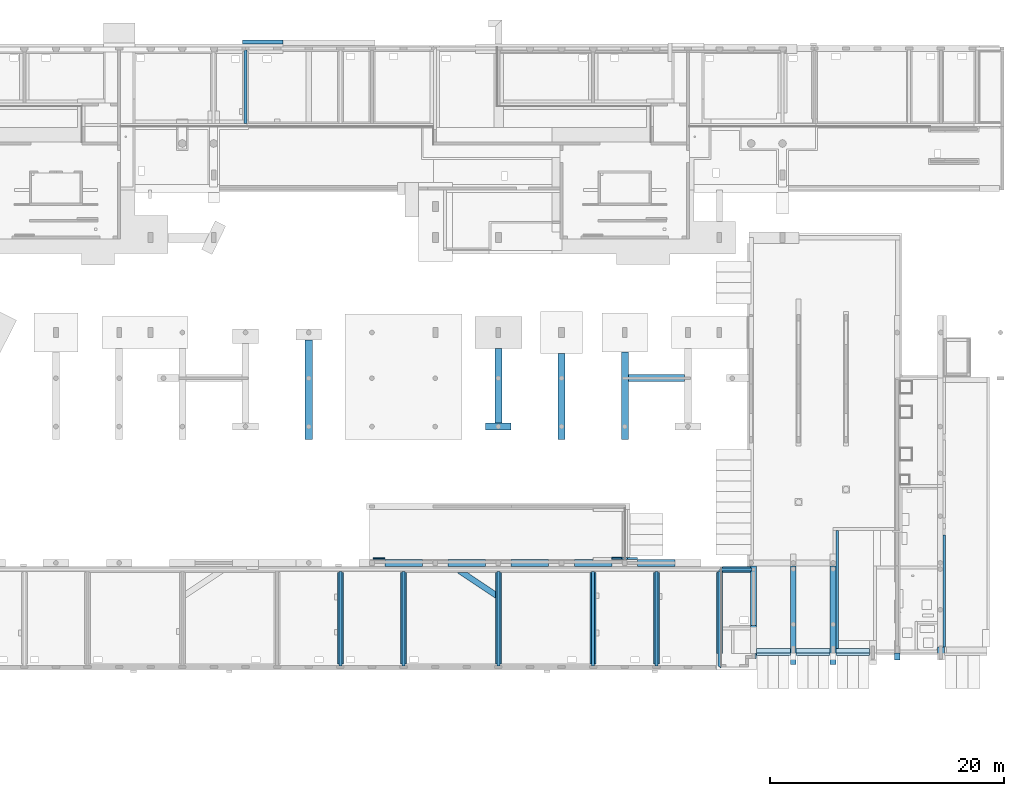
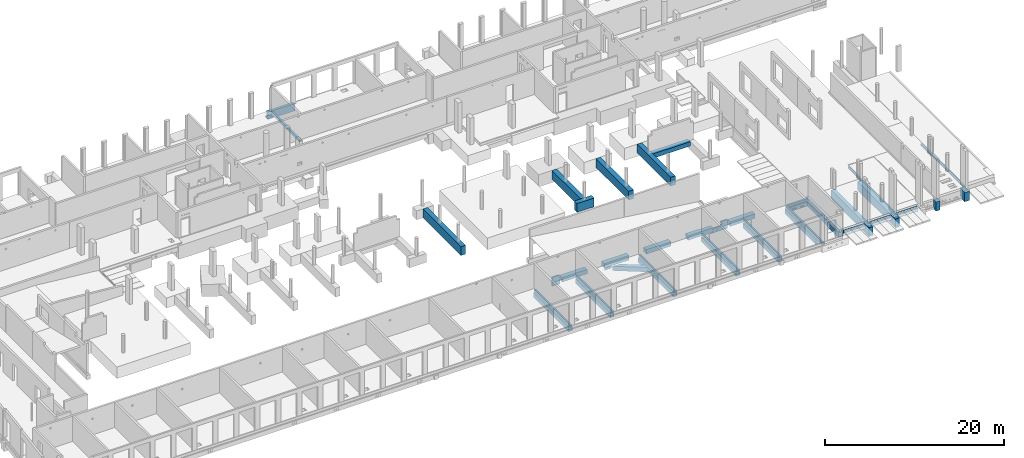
# One storey, part 5 of 60: 46 footings.
"""IFC2X3 building model written with IfcOpenShell, lengths in millimetres."""

from ifc_helpers import new_model, entity, si_unit, converted_unit, derived_unit, direction, frame, frame_2d, origin, origin_2d_with_axis, place, context, subcontext, project, spatial, polyline, circle_curve, parameter, trimmed, segment, composite_curve, rectangle, outline, extrude, material, element, save


model = new_model("IFC2X3")

# Units and contexts
model_context = context("Model", 3, precision=0.01, world=origin(), true_north=direction((6.12303176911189e-17, 1.0)))
body_context = subcontext(model_context, "Body", "Model", "MODEL_VIEW")
ifc_project = project(units=[si_unit("LENGTHUNIT", "METRE", prefix="MILLI"), si_unit("AREAUNIT", "SQUARE_METRE"), si_unit("VOLUMEUNIT", "CUBIC_METRE"), converted_unit("PLANEANGLEUNIT", "DEGREE", entity("IfcRatioMeasure", 0.0174532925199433), si_unit("PLANEANGLEUNIT", "RADIAN"), dimensions=[0, 0, 0, 0, 0, 0, 0]), si_unit("MASSUNIT", "GRAM", prefix="KILO"), derived_unit("MASSDENSITYUNIT", [(si_unit("MASSUNIT", "GRAM", prefix="KILO"), 1), (si_unit("LENGTHUNIT", "METRE"), -3)]), si_unit("TIMEUNIT", "SECOND"), si_unit("FREQUENCYUNIT", "HERTZ"), si_unit("THERMODYNAMICTEMPERATUREUNIT", "DEGREE_CELSIUS"), derived_unit("THERMALTRANSMITTANCEUNIT", [(si_unit("MASSUNIT", "GRAM", prefix="KILO"), 1), (si_unit("THERMODYNAMICTEMPERATUREUNIT", "KELVIN"), -1), (si_unit("TIMEUNIT", "SECOND"), -3)]), derived_unit("VOLUMETRICFLOWRATEUNIT", [(si_unit("LENGTHUNIT", "METRE"), 3), (si_unit("TIMEUNIT", "SECOND"), -1)]), si_unit("ELECTRICCURRENTUNIT", "AMPERE"), si_unit("ELECTRICVOLTAGEUNIT", "VOLT"), si_unit("POWERUNIT", "WATT"), si_unit("FORCEUNIT", "NEWTON", prefix="KILO"), si_unit("ILLUMINANCEUNIT", "LUX"), si_unit("LUMINOUSFLUXUNIT", "LUMEN"), si_unit("LUMINOUSINTENSITYUNIT", "CANDELA"), derived_unit("USERDEFINED", [(si_unit("MASSUNIT", "GRAM", prefix="KILO"), -1), (si_unit("LENGTHUNIT", "METRE"), -2), (si_unit("TIMEUNIT", "SECOND"), 3), (si_unit("LUMINOUSFLUXUNIT", "LUMEN"), 1)]), derived_unit("LINEARVELOCITYUNIT", [(si_unit("LENGTHUNIT", "METRE"), 1), (si_unit("TIMEUNIT", "SECOND"), -1)]), si_unit("PRESSUREUNIT", "PASCAL"), derived_unit("USERDEFINED", [(si_unit("LENGTHUNIT", "METRE"), -2), (si_unit("MASSUNIT", "GRAM", prefix="KILO"), 1), (si_unit("TIMEUNIT", "SECOND"), -2)])], contexts=[model_context])

# Site, building, storey
site_placement = place(None, origin())
site = spatial("IfcSite", under=ifc_project, at=site_placement, Name="Default", CompositionType="ELEMENT")
building_placement = place(site_placement, origin())
building = spatial("IfcBuilding", under=site, at=building_placement, Name="niet gebruiken", CompositionType="ELEMENT")
storey_placement = place(building_placement, origin())
storey = spatial("IfcBuildingStorey", under=building, at=storey_placement, Name="00 begane grond", CompositionType="ELEMENT", Elevation=0.0)

# Footings
ifc_material = material(Name="NLRS_f2_beton ihwg")
footing_1_placement = place(storey_placement, origin())
element("IfcFooting", 1, at=footing_1_placement, inside=storey, material=ifc_material, Name="NLRS_16.12_SF_WPB_funderingsbalk ihwg recht_gen:500x600", ObjectType="NLRS_16.12_SF_WPB_funderingsbalk ihwg recht_gen:500x600", PredefinedType="FOOTING_BEAM", context=body_context, shape_type="SweptSolid", body=[
    extrude(rectangle(XDim=7821.00000000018, YDim=499.999999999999, at=frame_2d((-161.12993296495, -124.999999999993), x_axis=(1.0, 0.0))), frame((67375.0, 4621.62993296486, -1092.0), z_axis=(0.0, 0.0, 1.0), x_axis=(0.0, 1.0, 0.0)), (0.0, 0.0, 1.0), 599.999999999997),
])
footing_2_placement = place(storey_placement, origin())
element("IfcFooting", 2, at=footing_2_placement, inside=storey, material=ifc_material, Name="NLRS_16.12_SF_WPB_funderingsbalk ihwg recht_gen:500x600", ObjectType="NLRS_16.12_SF_WPB_funderingsbalk ihwg recht_gen:500x600", PredefinedType="FOOTING_BEAM", context=body_context, shape_type="SweptSolid", body=[
    extrude(rectangle(XDim=7821.00000000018, YDim=499.999999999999, at=frame_2d((0.0, -4.33431068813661e-12), x_axis=(1.0, 0.0))), frame((72900.0, 4460.49999999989, -1092.0), z_axis=(0.0, 0.0, 1.0), x_axis=(0.0, 1.0, 0.0)), (0.0, 0.0, 1.0), 599.999999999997),
])
footing_3_placement = place(storey_placement, origin())
element("IfcFooting", 3, at=footing_3_placement, inside=storey, material=ifc_material, Name="NLRS_16.12_SF_WPB_funderingsbalk ihwg recht_gen:500x600", ObjectType="NLRS_16.12_SF_WPB_funderingsbalk ihwg recht_gen:500x600", PredefinedType="FOOTING_BEAM", context=body_context, shape_type="SweptSolid", body=[
    extrude(rectangle(XDim=7821.00000000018, YDim=499.99999999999, at=frame_2d((-669.089119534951, -83.3333333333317), x_axis=(1.0, 0.0))), frame((80916.6666666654, 5129.58911953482, -1092.0), z_axis=(0.0, 0.0, 1.0), x_axis=(0.0, 1.0, 0.0)), (0.0, 0.0, 1.0), 599.999999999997),
])
footing_4_placement = place(storey_placement, origin())
element("IfcFooting", 4, at=footing_4_placement, inside=storey, material=ifc_material, Name="NLRS_16.12_SF_WPB_funderingsbalk ihwg recht_gen:500x600", ObjectType="NLRS_16.12_SF_WPB_funderingsbalk ihwg recht_gen:500x600", PredefinedType="FOOTING_BEAM", context=body_context, shape_type="SweptSolid", body=[
    extrude(rectangle(XDim=7821.00000000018, YDim=499.99999999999, at=frame_2d((-173.255249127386, 125.000000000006), x_axis=(1.0, 0.0))), frame((89225.0, 4633.75524912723, -1092.0), z_axis=(0.0, 0.0, 1.0), x_axis=(0.0, 1.0, 0.0)), (0.0, 0.0, 1.0), 599.999999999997),
])
footing_5_placement = place(storey_placement, origin())
element("IfcFooting", 5, at=footing_5_placement, inside=storey, material=ifc_material, Name="NLRS_16.12_SF_WPB_funderingsbalk ihwg recht_gen:500x600", ObjectType="NLRS_16.12_SF_WPB_funderingsbalk ihwg recht_gen:500x600", PredefinedType="FOOTING_BEAM", context=body_context, shape_type="SweptSolid", body=[
    extrude(rectangle(XDim=7821.00000000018, YDim=499.99999999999, at=frame_2d((-618.746319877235, 83.3333333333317), x_axis=(1.0, 0.0))), frame((94583.333333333, 5079.24631987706, -1092.0), z_axis=(0.0, 0.0, 1.0), x_axis=(0.0, 1.0, 0.0)), (0.0, 0.0, 1.0), 599.999999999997),
])
footing_6_placement = place(storey_placement, origin())
element("IfcFooting", 6, at=footing_6_placement, inside=storey, material=ifc_material, Name="NLRS_16.12_SF_WPB_funderingsbalk ihwg recht_gen:500x600", ObjectType="NLRS_16.12_SF_WPB_funderingsbalk ihwg recht_gen:500x600", PredefinedType="FOOTING_BEAM", context=body_context, shape_type="SweptSolid", body=[
    extrude(outline(polyline([(-2668.4, -300.0), (4252.59999999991, -300.0), (4252.59999999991, 200.0), (-2668.39999999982, 200.0), (-3168.39999999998, 200.0), (-2668.4, -300.0)])), frame((99950.0, 5702.5999999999, -1092.0), z_axis=(0.0, 0.0, 1.0), x_axis=(0.0, -1.0, 0.0)), (0.0, 0.0, 1.0), 599.999999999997),
])
footing_7_placement = place(storey_placement, origin())
element("IfcFooting", 7, at=footing_7_placement, inside=storey, material=ifc_material, Name="NLRS_16.12_SF_WPB_opstort ihwg recht_gen:250x332", ObjectType="NLRS_16.12_SF_WPB_opstort ihwg recht_gen:250x332", PredefinedType="FOOTING_BEAM", context=body_context, shape_type="SweptSolid", body=[
    extrude(rectangle(XDim=8083.29999999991, YDim=249.999999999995, at=origin_2d_with_axis()), frame((67500.0, 4441.65000000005, -492.0), z_axis=(0.0, 0.0, 1.0), x_axis=(0.0, -1.0, 0.0)), (0.0, 0.0, 1.0), 331.999999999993),
])
footing_8_placement = place(storey_placement, origin())
element("IfcFooting", 8, at=footing_8_placement, inside=storey, material=ifc_material, Name="NLRS_16.12_SF_WPB_opstort ihwg recht_gen:250x332", ObjectType="NLRS_16.12_SF_WPB_opstort ihwg recht_gen:250x332", PredefinedType="FOOTING_BEAM", context=body_context, shape_type="SweptSolid", body=[
    extrude(rectangle(XDim=8083.29999999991, YDim=249.999999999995, at=origin_2d_with_axis()), frame((72900.0, 4441.65000000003, -492.0), z_axis=(0.0, 0.0, 1.0), x_axis=(0.0, -1.0, 0.0)), (0.0, 0.0, 1.0), 331.999999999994),
])
footing_9_placement = place(storey_placement, origin())
element("IfcFooting", 9, at=footing_9_placement, inside=storey, material=ifc_material, Name="NLRS_16.12_SF_WPB_opstort ihwg recht_gen:250x332", ObjectType="NLRS_16.12_SF_WPB_opstort ihwg recht_gen:250x332", PredefinedType="FOOTING_BEAM", context=body_context, shape_type="SweptSolid", body=[
    extrude(rectangle(XDim=8083.29999999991, YDim=249.999999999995, at=frame_2d((0.0, 8.66151594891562e-12), x_axis=(1.0, 0.0))), frame((81000.0, 4441.65000000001, -492.0), z_axis=(0.0, 0.0, 1.0), x_axis=(0.0, -1.0, 0.0)), (0.0, 0.0, 1.0), 331.999999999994),
])
footing_10_placement = place(storey_placement, origin())
element("IfcFooting", 10, at=footing_10_placement, inside=storey, material=ifc_material, Name="NLRS_16.12_SF_WPB_opstort ihwg recht_gen:250x332", ObjectType="NLRS_16.12_SF_WPB_opstort ihwg recht_gen:250x332", PredefinedType="FOOTING_BEAM", context=body_context, shape_type="SweptSolid", body=[
    extrude(rectangle(XDim=8083.29999999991, YDim=249.999999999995, at=frame_2d((0.0, -8.66151594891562e-12), x_axis=(1.0, 0.0))), frame((89100.0, 4441.64999999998, -492.0), z_axis=(0.0, 0.0, 1.0), x_axis=(0.0, -1.0, 0.0)), (0.0, 0.0, 1.0), 331.999999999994),
])
footing_11_placement = place(storey_placement, origin())
element("IfcFooting", 11, at=footing_11_placement, inside=storey, material=ifc_material, Name="NLRS_16.12_SF_WPB_opstort ihwg recht_gen:250x332", ObjectType="NLRS_16.12_SF_WPB_opstort ihwg recht_gen:250x332", PredefinedType="FOOTING_BEAM", context=body_context, shape_type="SweptSolid", body=[
    extrude(rectangle(XDim=8083.29999999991, YDim=249.999999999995, at=frame_2d((0.0, -8.66151594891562e-12), x_axis=(1.0, 0.0))), frame((94500.0, 4441.64999999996, -492.0), z_axis=(0.0, 0.0, 1.0), x_axis=(0.0, -1.0, 0.0)), (0.0, 0.0, 1.0), 331.999999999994),
])
footing_12_placement = place(storey_placement, origin())
element("IfcFooting", 12, at=footing_12_placement, inside=storey, material=ifc_material, Name="NLRS_16.12_SF_WPB_opstort ihwg recht_gen:250x332", ObjectType="NLRS_16.12_SF_WPB_opstort ihwg recht_gen:250x332", PredefinedType="FOOTING_BEAM", context=body_context, shape_type="SweptSolid", body=[
    extrude(outline(polyline([(-4889.97999999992, -150.0), (3193.31999999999, -150.0), (3393.31999999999, 100.0), (3193.31999999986, 100.0), (-4889.97999999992, 100.0), (-4889.97999999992, -150.0)])), frame((99925.0, 3593.31999999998, -492.0), z_axis=(0.0, 0.0, 1.0), x_axis=(0.0, -1.0, 0.0)), (0.0, 0.0, 1.0), 331.999999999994),
])
footing_13_placement = place(storey_placement, origin())
element("IfcFooting", 13, at=footing_13_placement, inside=storey, material=ifc_material, Name="NLRS_16.12_SF_WPB_opstort ihwg recht_gen:250x332", ObjectType="NLRS_16.12_SF_WPB_opstort ihwg recht_gen:250x332", PredefinedType="FOOTING_BEAM", context=body_context, shape_type="SweptSolid", body=[
    extrude(rectangle(XDim=6259.99999999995, YDim=250.000000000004, at=frame_2d((-4.32009983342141e-12, -4.33431068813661e-12), x_axis=(1.0, 0.0))), frame((59400.0, 49876.0, -492.0), z_axis=(0.0, 0.0, 1.0), x_axis=(0.0, 1.0, 0.0)), (0.0, 0.0, 1.0), 331.999999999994),
])
footing_14_placement = place(storey_placement, origin())
element("IfcFooting", 14, at=footing_14_placement, inside=storey, material=ifc_material, Name="NLRS_16.12_SF_WPB_funderingsbalk ihwg recht_gen:600x1200", ObjectType="NLRS_16.12_SF_WPB_funderingsbalk ihwg recht_gen:600x1200", PredefinedType="FOOTING_BEAM", context=body_context, shape_type="SweptSolid", body=[
    extrude(rectangle(XDim=8504.99999999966, YDim=600.000000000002, at=frame_2d((0.0, -4.32009983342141e-12), x_axis=(1.0, 0.0))), frame((64800.0, 23998.5000000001, -1400.0), z_axis=(0.0, 0.0, 1.0), x_axis=(0.0, 1.0, 0.0)), (0.0, 0.0, 1.0), 1200.0),
])
footing_15_placement = place(storey_placement, origin())
element("IfcFooting", 15, at=footing_15_placement, inside=storey, material=ifc_material, Name="NLRS_16.12_SF_WPB_funderingsbalk ihwg recht_gen:600x1200", ObjectType="NLRS_16.12_SF_WPB_funderingsbalk ihwg recht_gen:600x1200", PredefinedType="FOOTING_BEAM", context=body_context, shape_type="SweptSolid", body=[
    extrude(rectangle(XDim=6384.99999999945, YDim=600.000000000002, at=frame_2d((0.0, 8.66862137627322e-12), x_axis=(1.0, 0.0))), frame((81000.0, 24338.5000000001, -1400.0), z_axis=(0.0, 0.0, 1.0), x_axis=(0.0, -1.0, 0.0)), (0.0, 0.0, 1.0), 1200.0),
])
footing_16_placement = place(storey_placement, origin())
element("IfcFooting", 16, at=footing_16_placement, inside=storey, material=ifc_material, Name="NLRS_16.12_SF_WPB_funderingsbalk ihwg recht_gen:600x1200", ObjectType="NLRS_16.12_SF_WPB_funderingsbalk ihwg recht_gen:600x1200", PredefinedType="FOOTING_BEAM", context=body_context, shape_type="SweptSolid", body=[
    extrude(rectangle(XDim=7334.99999999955, YDim=600.000000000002, at=frame_2d((0.0, -8.66862137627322e-12), x_axis=(1.0, 0.0))), frame((86400.0, 23413.5, -1400.0), z_axis=(0.0, 0.0, 1.0), x_axis=(0.0, 1.0, 0.0)), (0.0, 0.0, 1.0), 1200.0),
])
footing_17_placement = place(storey_placement, origin())
element("IfcFooting", 17, at=footing_17_placement, inside=storey, material=ifc_material, Name="NLRS_16.12_SF_WPB_funderingsbalk ihwg recht_gen:600x1200", ObjectType="NLRS_16.12_SF_WPB_funderingsbalk ihwg recht_gen:600x1200", PredefinedType="FOOTING_BEAM", context=body_context, shape_type="SweptSolid", body=[
    extrude(rectangle(XDim=7459.99999999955, YDim=600.000000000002, at=frame_2d((2.27373675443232e-12, -8.66862137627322e-12), x_axis=(1.0, 0.0))), frame((91800.0, 23476.0, -1400.0), z_axis=(0.0, 0.0, 1.0), x_axis=(0.0, 1.0, 0.0)), (0.0, 0.0, 1.0), 1200.0),
])
footing_18_placement = place(storey_placement, origin())
element("IfcFooting", 18, at=footing_18_placement, inside=storey, material=ifc_material, Name="NLRS_16.12_SF_WPB_funderingsbalk ihwg recht_gen:600x1200", ObjectType="NLRS_16.12_SF_WPB_funderingsbalk ihwg recht_gen:600x1200", PredefinedType="FOOTING_BEAM", context=body_context, shape_type="SweptSolid", body=[
    extrude(rectangle(XDim=2199.99999999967, YDim=600.000000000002, at=frame_2d((-5.16138243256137e-11, -99.9999999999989), x_axis=(1.0, 0.0))), frame((81000.0, 20946.0, -1400.0)), (0.0, 0.0, 1.0), 1200.0),
])
footing_19_placement = place(storey_placement, origin())
element("IfcFooting", 19, at=footing_19_placement, inside=storey, material=ifc_material, Name="NLRS_16.12_SF_WPB_funderingsbalk ihwg recht_gen:600x600", ObjectType="NLRS_16.12_SF_WPB_funderingsbalk ihwg recht_gen:600x600", PredefinedType="FOOTING_BEAM", context=body_context, shape_type="SweptSolid", body=[
    extrude(rectangle(XDim=2900.00037071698, YDim=600.0, at=origin_2d_with_axis()), frame((104500.0, 1600.0, -1050.0)), (0.0, 0.0, 1.0), 399.999999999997),
])
footing_20_placement = place(storey_placement, origin())
element("IfcFooting", 20, at=footing_20_placement, inside=storey, material=ifc_material, Name="NLRS_16.12_SF_WPB_funderingsbalk ihwg recht_gen:600x600", ObjectType="NLRS_16.12_SF_WPB_funderingsbalk ihwg recht_gen:600x600", PredefinedType="FOOTING_BEAM", context=body_context, shape_type="SweptSolid", body=[
    extrude(rectangle(XDim=2899.99999999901, YDim=600.0, at=frame_2d((8.75388650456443e-12, 0.0), x_axis=(1.0, 0.0))), frame((107900.000370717, 1600.0, -1050.0)), (0.0, 0.0, 1.0), 399.999999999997),
])
footing_21_placement = place(storey_placement, origin())
element("IfcFooting", 21, at=footing_21_placement, inside=storey, material=ifc_material, Name="NLRS_16.12_SF_WPB_funderingsbalk ihwg recht_gen:600x600", ObjectType="NLRS_16.12_SF_WPB_funderingsbalk ihwg recht_gen:600x600", PredefinedType="FOOTING_BEAM", context=body_context, shape_type="SweptSolid", body=[
    extrude(rectangle(XDim=2850.00000000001, YDim=600.0, at=origin_2d_with_axis()), frame((111275.000370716, 1600.0, -1050.0), z_axis=(0.0, 0.0, 1.0), x_axis=(-1.0, 0.0, 0.0)), (0.0, 0.0, 1.0), 399.999999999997),
])
footing_22_placement = place(storey_placement, origin())
element("IfcFooting", 22, at=footing_22_placement, inside=storey, material=ifc_material, Name="NLRS_16.12_SF_WPB_funderingsbalk ihwg recht_gen:500x600", ObjectType="NLRS_16.12_SF_WPB_funderingsbalk ihwg recht_gen:500x600", PredefinedType="FOOTING_BEAM", context=body_context, shape_type="SweptSolid", body=[
    extrude(rectangle(XDim=5096.00000000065, YDim=499.99999999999, at=frame_2d((-740.99999999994, -83.333333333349), x_axis=(1.0, 0.0))), frame((102716.666666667, 7139.0, -1092.0), z_axis=(0.0, 0.0, 1.0), x_axis=(0.0, 1.0, 0.0)), (0.0, 0.0, 1.0), 599.999999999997),
])
footing_23_placement = place(storey_placement, origin())
element("IfcFooting", 23, at=footing_23_placement, inside=storey, material=ifc_material, Name="NLRS_16.12_SF_WPB_funderingsbalk ihwg recht_gen:500x600", ObjectType="NLRS_16.12_SF_WPB_funderingsbalk ihwg recht_gen:500x600", PredefinedType="FOOTING_BEAM", context=body_context, shape_type="SweptSolid", body=[
    extrude(outline(polyline([(-1200.0, -300.0), (1200.0, -300.0), (1200.0, 300.0), (-1200.0, 300.0), (-1200.0, -300.0)]), holes=[composite_curve([segment(trimmed(circle_curve(frame_2d((-374.724709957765, -98.0), x_axis=(-1.0, 0.0)), 80.0), [parameter(5.08888749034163e-13)], [parameter(180.0)], True, "PARAMETER"), False, "CONTINUOUS"), segment(trimmed(circle_curve(frame_2d((-374.724709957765, -98.0), x_axis=(-1.0, 0.0)), 80.0), [parameter(180.0)], [parameter(360.0)], True, "PARAMETER"), False, "CONTINUOUS")], self_intersect=False), composite_curve([segment(trimmed(circle_curve(frame_2d((-674.72470995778, -98.0), x_axis=(-1.0, 0.0)), 80.0), [parameter(3.05333249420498e-13)], [parameter(180.0)], True, "PARAMETER"), False, "CONTINUOUS"), segment(trimmed(circle_curve(frame_2d((-674.72470995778, -98.0), x_axis=(-1.0, 0.0)), 80.0), [parameter(180.0)], [parameter(360.0)], True, "PARAMETER"), False, "CONTINUOUS")], self_intersect=False), composite_curve([segment(trimmed(circle_curve(frame_2d((725.373813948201, -53.0), x_axis=(-1.0, 0.0)), 125.0), [parameter(3.05333249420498e-13)], [parameter(180.0)], True, "PARAMETER"), False, "CONTINUOUS"), segment(trimmed(circle_curve(frame_2d((725.373813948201, -53.0), x_axis=(-1.0, 0.0)), 125.0), [parameter(180.0)], [parameter(360.0)], True, "PARAMETER"), False, "CONTINUOUS")], self_intersect=False), composite_curve([segment(trimmed(circle_curve(frame_2d((375.373813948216, -53.0), x_axis=(-1.0, 0.0)), 125.0), [parameter(3.05333249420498e-13)], [parameter(180.0)], True, "PARAMETER"), False, "CONTINUOUS"), segment(trimmed(circle_curve(frame_2d((375.373813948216, -53.0), x_axis=(-1.0, 0.0)), 125.0), [parameter(180.0)], [parameter(360.0)], True, "PARAMETER"), False, "CONTINUOUS")], self_intersect=False)]), frame((101350.0, 8371.0, -792.0), z_axis=(0.0, 1.0, 0.0), x_axis=(-1.0, 0.0, 0.0)), (0.0, 0.0, 1.0), 500.0),
])
footing_24_placement = place(storey_placement, origin())
element("IfcFooting", 24, at=footing_24_placement, inside=storey, material=ifc_material, Name="NLRS_16.12_SF_WPB_funderingsbalk ihwg recht_gen:600x600", ObjectType="NLRS_16.12_SF_WPB_funderingsbalk ihwg recht_gen:600x600", PredefinedType="FOOTING_BEAM", context=body_context, shape_type="SweptSolid", body=[
    extrude(rectangle(XDim=3200.00000000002, YDim=600.0, at=frame_2d((0.0, -5.40012479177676e-13), x_axis=(1.0, 0.0))), frame((72900.0, 9196.0, -800.0)), (0.0, 0.0, 1.0), 599.999999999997),
])
footing_25_placement = place(storey_placement, origin())
element("IfcFooting", 25, at=footing_25_placement, inside=storey, material=ifc_material, Name="NLRS_16.12_SF_WPB_funderingsbalk ihwg recht_gen:600x600", ObjectType="NLRS_16.12_SF_WPB_funderingsbalk ihwg recht_gen:600x600", PredefinedType="FOOTING_BEAM", context=body_context, shape_type="SweptSolid", body=[
    extrude(rectangle(XDim=3200.00000000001, YDim=600.0, at=frame_2d((-4.32009983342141e-12, -5.40012479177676e-13), x_axis=(1.0, 0.0))), frame((78300.0, 9196.0, -800.0)), (0.0, 0.0, 1.0), 599.999999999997),
])
footing_26_placement = place(storey_placement, origin())
element("IfcFooting", 26, at=footing_26_placement, inside=storey, material=ifc_material, Name="NLRS_16.12_SF_WPB_funderingsbalk ihwg recht_gen:600x600", ObjectType="NLRS_16.12_SF_WPB_funderingsbalk ihwg recht_gen:600x600", PredefinedType="FOOTING_BEAM", context=body_context, shape_type="SweptSolid", body=[
    extrude(rectangle(XDim=3200.0, YDim=600.0, at=frame_2d((8.64019966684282e-12, -5.40012479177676e-13), x_axis=(1.0, 0.0))), frame((83700.0, 9196.0, -800.0)), (0.0, 0.0, 1.0), 599.999999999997),
])
footing_27_placement = place(storey_placement, origin())
element("IfcFooting", 27, at=footing_27_placement, inside=storey, material=ifc_material, Name="NLRS_16.12_SF_WPB_funderingsbalk ihwg recht_gen:600x600", ObjectType="NLRS_16.12_SF_WPB_funderingsbalk ihwg recht_gen:600x600", PredefinedType="FOOTING_BEAM", context=body_context, shape_type="SweptSolid", body=[
    extrude(outline(polyline([(-1600.0, -373.333333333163), (1600.0, -373.333333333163), (1600.0, 146.666666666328), (0.0, 146.666666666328), (0.0, 226.666666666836), (-1600.0, 226.666666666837), (-1600.0, -373.333333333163)])), frame((89100.0, 9269.33333333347, -800.0)), (0.0, 0.0, 1.0), 599.999999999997),
])
footing_28_placement = place(storey_placement, origin())
element("IfcFooting", 28, at=footing_28_placement, inside=storey, material=ifc_material, Name="NLRS_16.12_SF_WPB_opstort ihwg recht_gen:375x292", ObjectType="NLRS_16.12_SF_WPB_opstort ihwg recht_gen:375x292", PredefinedType="FOOTING_BEAM", context=body_context, shape_type="SweptSolid", body=[
    extrude(outline(polyline([(-4488.81818181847, -181.818181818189), (-4288.81818181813, -181.818181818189), (-4038.81818181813, -181.818181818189), (862.181818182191, -181.818181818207), (3007.18181818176, -181.818181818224), (3007.18181818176, 68.1818181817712), (3407.18181818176, 68.1818181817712), (3407.18181818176, 193.181818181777), (3007.18181818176, 193.181818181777), (607.181818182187, 193.181818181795), (-4488.81818181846, 193.181818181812), (-4488.81818181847, -181.818181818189)])), frame((102856.818181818, 4457.18181818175, -492.0), z_axis=(0.0, 0.0, 1.0), x_axis=(0.0, -1.0, 0.0)), (0.0, 0.0, 1.0), 291.999999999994),
])
footing_29_placement = place(storey_placement, origin())
element("IfcFooting", 29, at=footing_29_placement, inside=storey, material=ifc_material, Name="NLRS_16.12_SF_WPB_funderingsbalk ihwg recht_gen:200x200", ObjectType="NLRS_16.12_SF_WPB_funderingsbalk ihwg recht_gen:200x200", PredefinedType="FOOTING_BEAM", context=body_context, shape_type="SweptSolid", body=[
    extrude(rectangle(XDim=9598.26243587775, YDim=200.000000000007, at=frame_2d((4.54747350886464e-13, 0.0), x_axis=(1.0, 0.0))), frame((119100.0, 6801.8687820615, -505.0), z_axis=(0.0, 0.0, 1.0), x_axis=(0.0, 1.0, 0.0)), (0.0, 0.0, 1.0), 199.999999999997),
])
footing_30_placement = place(storey_placement, origin())
element("IfcFooting", 30, at=footing_30_placement, inside=storey, material=ifc_material, Name="NLRS_16.12_SF_WPB_funderingsbalk ihwg recht_gen:500x1200", ObjectType="NLRS_16.12_SF_WPB_funderingsbalk ihwg recht_gen:500x1200", PredefinedType="FOOTING_BEAM", context=body_context, shape_type="SweptSolid", body=[
    extrude(outline(polyline([(-4031.55555555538, -677.777777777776), (4264.44444444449, -677.777777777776), (4264.44444444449, -627.777777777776), (4414.44444444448, -627.777777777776), (4414.44444444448, 522.222222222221), (-2631.55555555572, 522.222222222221), (-3031.55555555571, 522.222222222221), (-3631.55555555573, 522.22222222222), (-4031.55555555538, 522.22222222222), (-4031.55555555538, -677.777777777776)])), frame((109350.000370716, 4531.55555555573, -972.222222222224), z_axis=(1.0, 0.0, 0.0), x_axis=(0.0, 1.0, 0.0)), (0.0, 0.0, 1.0), 499.99999999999),
])
footing_31_placement = place(storey_placement, origin())
element("IfcFooting", 31, at=footing_31_placement, inside=storey, material=ifc_material, Name="NLRS_16.12_SF_WPB_funderingsbalk ihwg recht_gen:200x200", ObjectType="NLRS_16.12_SF_WPB_funderingsbalk ihwg recht_gen:200x200", PredefinedType="FOOTING_BEAM", context=body_context, shape_type="SweptSolid", body=[
    extrude(rectangle(XDim=10071.0000000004, YDim=200.000000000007, at=frame_2d((0.0, -8.66862137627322e-12), x_axis=(1.0, 0.0))), frame((109950.000370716, 6935.50000000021, -650.0), z_axis=(0.0, 0.0, 1.0), x_axis=(0.0, 1.0, 0.0)), (0.0, 0.0, 1.0), 199.999999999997),
])
footing_32_placement = place(storey_placement, origin())
element("IfcFooting", 32, at=footing_32_placement, inside=storey, material=ifc_material, Name="NLRS_16.12_SF_WPB_funderingsbalk ihwg recht_gen:500x1200", ObjectType="NLRS_16.12_SF_WPB_funderingsbalk ihwg recht_gen:500x1200", PredefinedType="FOOTING_BEAM", context=body_context, shape_type="SweptSolid", body=[
    extrude(outline(polyline([(-4031.55555555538, -677.777777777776), (4264.44444444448, -677.777777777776), (4264.44444444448, -627.777777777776), (4414.44444444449, -627.777777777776), (4414.44444444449, 522.22222222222), (-2631.55555555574, 522.22222222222), (-3031.5555555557, 522.22222222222), (-3631.55555555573, 522.22222222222), (-4031.55555555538, 522.22222222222), (-4031.55555555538, -677.777777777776)])), frame((105950.000370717, 4531.55555555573, -972.222222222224), z_axis=(1.0, 0.0, 0.0), x_axis=(0.0, 1.0, 0.0)), (0.0, 0.0, 1.0), 499.99999999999),
])
footing_33_placement = place(storey_placement, origin())
element("IfcFooting", 33, at=footing_33_placement, inside=storey, material=ifc_material, Name="NLRS_16.12_SF_WPB_funderingsbalk ihwg recht_gen:600x1250", ObjectType="NLRS_16.12_SF_WPB_funderingsbalk ihwg recht_gen:600x1250", PredefinedType="FOOTING_BEAM", context=body_context, shape_type="SweptSolid", body=[
    extrude(outline(polyline([(-600.0, -600.0), (-150.0, -600.0), (-150.0, -350.0), (0.0, -350.0), (250.0, -350.0), (500.0, -350.0), (500.0, 650.0), (250.0, 650.0), (0.0, 650.0), (-600.0, 650.0), (-600.0, -600.0)])), frame((118500.0, 1500.0, -950.0), z_axis=(1.0, 0.0, 0.0), x_axis=(0.0, 1.0, 0.0)), (0.0, 0.0, 1.0), 600.000000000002),
])
footing_34_placement = place(storey_placement, origin())
element("IfcFooting", 34, at=footing_34_placement, inside=storey, material=ifc_material, Name="NLRS_16.12_SF_WPB_funderingsbalk ihwg recht_gen:500x1250", ObjectType="NLRS_16.12_SF_WPB_funderingsbalk ihwg recht_gen:500x1250", PredefinedType="FOOTING_BEAM", context=body_context, shape_type="SweptSolid", body=[
    extrude(outline(polyline([(-385.714285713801, -585.714285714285), (64.2857142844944, -585.714285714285), (64.285714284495, -335.714285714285), (214.285714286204, -335.714285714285), (214.285714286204, 514.285714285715), (214.285714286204, 664.285714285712), (-385.714285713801, 664.285714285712), (-385.714285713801, -585.714285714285)])), frame((114825.0, 1285.7142857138, -964.285714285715), z_axis=(1.0, 0.0, 0.0), x_axis=(0.0, 1.0, 0.0)), (0.0, 0.0, 1.0), 499.99999999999),
])
footing_35_placement = place(storey_placement, origin())
element("IfcFooting", 35, at=footing_35_placement, inside=storey, material=ifc_material, Name="NLRS_16.12_SF_WPB_funderingsbalk ihwg recht_gen:600x600", ObjectType="NLRS_16.12_SF_WPB_funderingsbalk ihwg recht_gen:600x600", PredefinedType="FOOTING_BEAM", context=body_context, shape_type="SweptSolid", body=[
    extrude(rectangle(XDim=4800.00000000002, YDim=600.000000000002, at=origin_2d_with_axis()), frame((94500.0, 24976.0, -800.0)), (0.0, 0.0, 1.0), 599.999999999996),
])
footing_36_placement = place(storey_placement, origin())
element("IfcFooting", 36, at=footing_36_placement, inside=storey, material=ifc_material, Name="NLRS_16.12_SF_WPB_funderingsbalk ihwg recht_gen:600x600", ObjectType="NLRS_16.12_SF_WPB_funderingsbalk ihwg recht_gen:600x600", PredefinedType="FOOTING_BEAM", context=body_context, shape_type="SweptSolid", body=[
    extrude(rectangle(XDim=3200.0, YDim=600.0, at=frame_2d((8.64019966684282e-12, -5.40012479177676e-13), x_axis=(1.0, 0.0))), frame((94500.0, 9196.0, -800.0)), (0.0, 0.0, 1.0), 599.999999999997),
])
footing_37_placement = place(storey_placement, origin())
element("IfcFooting", 37, at=footing_37_placement, inside=storey, material=ifc_material, Name="NLRS_16.12_SF_WPB_opstort ihwg recht_gen:250x292", ObjectType="NLRS_16.12_SF_WPB_opstort ihwg recht_gen:250x292", PredefinedType="FOOTING_BEAM", context=body_context, shape_type="SweptSolid", body=[
    extrude(rectangle(XDim=2630.00000000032, YDim=249.999999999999, at=frame_2d((-8.64019966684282e-12, 0.0), x_axis=(1.0, 0.0))), frame((101360.0, 8621.0, -492.0), z_axis=(0.0, 0.0, 1.0), x_axis=(-1.0, 0.0, 0.0)), (0.0, 0.0, 1.0), 291.999999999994),
])
footing_38_placement = place(storey_placement, origin())
element("IfcFooting", 38, at=footing_38_placement, inside=storey, material=ifc_material, Name="NLRS_16.12_SF_WPB_opstort ihwg recht_gen:400x200", ObjectType="NLRS_16.12_SF_WPB_opstort ihwg recht_gen:400x200", PredefinedType="FOOTING_BEAM", context=body_context, shape_type="SweptSolid", body=[
    extrude(rectangle(XDim=2850.00000000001, YDim=400.0, at=frame_2d((244.999999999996, -40.0), x_axis=(1.0, 0.0))), frame((111030.000370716, 1740.0, -650.0)), (0.0, 0.0, 1.0), 199.999999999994),
])
footing_39_placement = place(storey_placement, origin())
element("IfcFooting", 39, at=footing_39_placement, inside=storey, material=ifc_material, Name="NLRS_16.12_SF_WPB_opstort ihwg recht_gen:400x200", ObjectType="NLRS_16.12_SF_WPB_opstort ihwg recht_gen:400x200", PredefinedType="FOOTING_BEAM", context=body_context, shape_type="SweptSolid", body=[
    extrude(rectangle(XDim=2899.99999999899, YDim=400.0, at=frame_2d((8.64019966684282e-12, -2.70006239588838e-13), x_axis=(1.0, 0.0))), frame((107900.000370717, 1700.0, -650.0)), (0.0, 0.0, 1.0), 199.999999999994),
])
footing_40_placement = place(storey_placement, origin())
element("IfcFooting", 40, at=footing_40_placement, inside=storey, material=ifc_material, Name="NLRS_16.12_SF_WPB_opstort ihwg recht_gen:400x200", ObjectType="NLRS_16.12_SF_WPB_opstort ihwg recht_gen:400x200", PredefinedType="FOOTING_BEAM", context=body_context, shape_type="SweptSolid", body=[
    extrude(rectangle(XDim=2900.00037071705, YDim=400.0, at=frame_2d((-8.75388650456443e-12, -2.70006239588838e-13), x_axis=(1.0, 0.0))), frame((104500.0, 1700.0, -650.0)), (0.0, 0.0, 1.0), 199.999999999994),
])
footing_41_placement = place(storey_placement, origin())
element("IfcFooting", 41, at=footing_41_placement, inside=storey, material=ifc_material, Name="NLRS_16.12_SF_WPB_funderingsbalk ihwg recht_gen:500x658", ObjectType="NLRS_16.12_SF_WPB_funderingsbalk ihwg recht_gen:500x658", PredefinedType="FOOTING_BEAM", context=body_context, shape_type="SweptSolid", body=[
    extrude(rectangle(XDim=2399.99999999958, YDim=499.99999999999, at=frame_2d((308.33333333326, 83.3333333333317), x_axis=(1.0, 0.0))), frame((102716.666666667, 2958.33333333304, -1150.0), z_axis=(0.0, 0.0, 1.0), x_axis=(0.0, -1.0, 0.0)), (0.0, 0.0, 1.0), 657.999999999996),
])
footing_42_placement = place(storey_placement, origin())
element("IfcFooting", 42, at=footing_42_placement, inside=storey, material=ifc_material, Name="NLRS_16.12_SF_WPB_funderingsbalk ihwg recht_gen:500x600", ObjectType="NLRS_16.12_SF_WPB_funderingsbalk ihwg recht_gen:500x600", PredefinedType="FOOTING_BEAM", context=body_context, shape_type="SweptSolid", body=[
    extrude(outline(polyline([(-189.222690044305, -250.0), (-183.317001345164, -250.0), (561.762381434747, 250.0), (-189.222690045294, 250.0), (-189.222690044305, -250.0)])), frame((77011.6790280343, 8976.44029893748, -1092.0), z_axis=(0.0, 0.0, 1.0), x_axis=(0.830359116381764, -0.55722862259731, 0.0)), (0.0, 0.0, 1.0), 274.999999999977),
    extrude(outline(polyline([(-1539.99904482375, -250.0), (1335.22671203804, -250.0), (2080.30609481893, 250.0), (-1875.53376203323, 250.0), (-1539.99904482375, -250.0)])), frame((79331.9405982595, 7419.38367930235, -1092.0), z_axis=(0.0, 0.0, 1.0), x_axis=(-0.830359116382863, 0.557228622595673, 0.0)), (0.0, 0.0, 1.0), 599.999999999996),
])
footing_43_placement = place(storey_placement, origin())
element("IfcFooting", 43, at=footing_43_placement, inside=storey, material=ifc_material, Name="NLRS_16.12_SF_WPB_funderingsbalk ihwg recht_gen:350x1000", ObjectType="NLRS_16.12_SF_WPB_funderingsbalk ihwg recht_gen:350x1000", PredefinedType="FOOTING_BEAM", context=body_context, shape_type="SweptSolid", body=[
    extrude(rectangle(XDim=3450.0, YDim=350.000000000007, at=frame_2d((0.0, -4.33431068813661e-12), x_axis=(1.0, 0.0))), frame((60875.0, 53706.0, -1492.0)), (0.0, 0.0, 1.0), 999.999999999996),
])
footing_44_placement = place(storey_placement, origin())
element("IfcFooting", 44, at=footing_44_placement, inside=storey, material=ifc_material, Name="NLRS_16.12_SF_WPB_funderingsbalk ihwg recht_gen:1000x1200", ObjectType="NLRS_16.12_SF_WPB_funderingsbalk ihwg recht_gen:1000x1200", PredefinedType="FOOTING_BEAM", context=body_context, shape_type="SweptSolid", body=[
    extrude(rectangle(XDim=149.999999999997, YDim=1000.00000000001, at=frame_2d((1.08002495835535e-12, 4.34852154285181e-12), x_axis=(1.0, 0.0))), frame((70800.0, 9571.0, -1400.0), z_axis=(0.0, 0.0, 1.0), x_axis=(0.0, -1.0, 0.0)), (0.0, 0.0, 1.0), 1200.0),
])
footing_45_placement = place(storey_placement, origin())
element("IfcFooting", 45, at=footing_45_placement, inside=storey, material=ifc_material, Name="NLRS_16.12_SF_WPB_funderingsbalk ihwg recht_gen:1350x1200", ObjectType="NLRS_16.12_SF_WPB_funderingsbalk ihwg recht_gen:1350x1200", PredefinedType="FOOTING_BEAM", context=body_context, shape_type="SweptSolid", body=[
    extrude(outline(polyline([(-709.090909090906, -568.181803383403), (-109.090909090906, -568.181803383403), (-109.090909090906, -418.181966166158), (-109.090909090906, -68.1818033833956), (90.9090909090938, -68.1818033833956), (90.9090909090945, 131.818196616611), (290.909090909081, 131.818196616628), (290.909090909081, -68.1818033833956), (490.90909090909, -68.1818033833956), (490.90909090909, 781.818196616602), (-709.090909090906, 781.818196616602), (-709.090909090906, -568.181803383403)])), frame((92118.181803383, 9496.0, -690.909090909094), z_axis=(0.0, 1.0, 0.0), x_axis=(0.0, 0.0, 1.0)), (0.0, 0.0, 1.0), 169.999999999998),
])
footing_46_placement = place(storey_placement, origin())
element("IfcFooting", 46, at=footing_46_placement, inside=storey, material=ifc_material, Name="NLRS_16.12_SF_WPB_funderingsbalk ihwg recht_gen:850x600", ObjectType="NLRS_16.12_SF_WPB_funderingsbalk ihwg recht_gen:850x600", PredefinedType="FOOTING_BEAM", context=body_context, shape_type="SweptSolid", body=[
    extrude(rectangle(XDim=169.999999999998, YDim=849.999999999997, at=frame_2d((1.08713038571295e-12, -1.73372427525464e-11), x_axis=(1.0, 0.0))), frame((91125.0, 9581.0, -1400.0), z_axis=(0.0, 0.0, 1.0), x_axis=(0.0, -1.0, 0.0)), (0.0, 0.0, 1.0), 599.999999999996),
])

save(model, "model.ifc")
